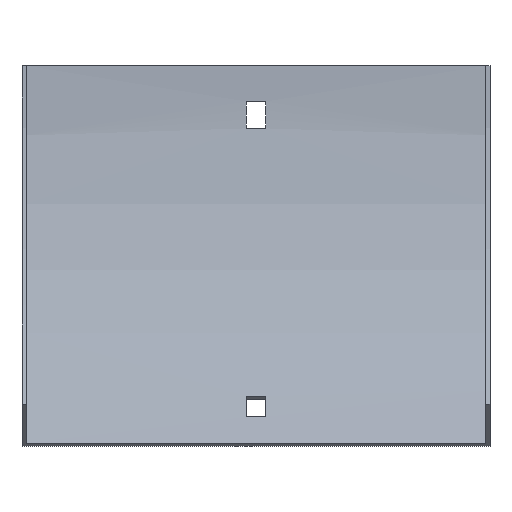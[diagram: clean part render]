
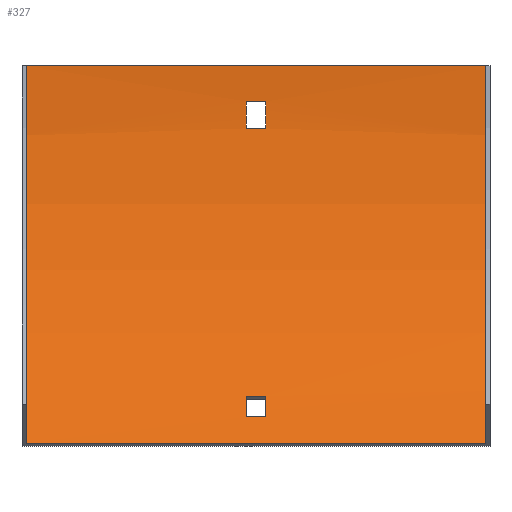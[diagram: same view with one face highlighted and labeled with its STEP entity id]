
A CAD part, front view. The second image highlights one B-rep face of the part: STEP entity #327.
In plain terms, the highlighted cylindrical face has radius 179 mm (diameter 358 mm), a partial arc.
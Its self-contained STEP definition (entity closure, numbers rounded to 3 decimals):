
#2 = EDGE_CURVE ( 'NONE', #588, #48, #360, .T. ) ;
#8 = ORIENTED_EDGE ( 'NONE', *, *, #319, .T. ) ;
#14 = EDGE_LOOP ( 'NONE', ( #15, #95, #174, #408 ) ) ;
#15 = ORIENTED_EDGE ( 'NONE', *, *, #472, .F. ) ;
#18 = CARTESIAN_POINT ( 'NONE',  ( -77., -53.928, -126.572 ) ) ;
#29 = DIRECTION ( 'NONE',  ( -1., 0., 0. ) ) ;
#34 = VERTEX_POINT ( 'NONE', #18 ) ;
#36 = LINE ( 'NONE', #536, #306 ) ;
#45 = LINE ( 'NONE', #331, #598 ) ;
#46 = ORIENTED_EDGE ( 'NONE', *, *, #377, .F. ) ;
#48 = VERTEX_POINT ( 'NONE', #54 ) ;
#54 = CARTESIAN_POINT ( 'NONE',  ( -3.25, -39.953, -110.849 ) ) ;
#67 = DIRECTION ( 'NONE',  ( 0., 0., -1. ) ) ;
#72 = CIRCLE ( 'NONE', #204, 179. ) ;
#73 = DIRECTION ( 'NONE',  ( 0., 0., 1. ) ) ;
#83 = DIRECTION ( 'NONE',  ( 1., 0., 0. ) ) ;
#88 = FACE_OUTER_BOUND ( 'NONE', #14, .T. ) ;
#91 = VERTEX_POINT ( 'NONE', #347 ) ;
#92 = VECTOR ( 'NONE', #133, 1000. ) ;
#95 = ORIENTED_EDGE ( 'NONE', *, *, #405, .F. ) ;
#110 = CARTESIAN_POINT ( 'NONE',  ( 3.25, -1.903, -12. ) ) ;
#116 = DIRECTION ( 'NONE',  ( 1., 0., 0. ) ) ;
#124 = EDGE_CURVE ( 'NONE', #91, #260, #72, .T. ) ;
#126 = VERTEX_POINT ( 'NONE', #161 ) ;
#133 = DIRECTION ( 'NONE',  ( 1., 0., 0. ) ) ;
#137 = ORIENTED_EDGE ( 'NONE', *, *, #218, .T. ) ;
#144 = ORIENTED_EDGE ( 'NONE', *, *, #280, .F. ) ;
#145 = AXIS2_PLACEMENT_3D ( 'NONE', #270, #116, #589 ) ;
#155 = DIRECTION ( 'NONE',  ( -1., 0., 0. ) ) ;
#161 = CARTESIAN_POINT ( 'NONE',  ( 77., -1.5, 0. ) ) ;
#162 = LINE ( 'NONE', #599, #350 ) ;
#169 = CARTESIAN_POINT ( 'NONE',  ( -3.25, -180.5, 0. ) ) ;
#170 = CARTESIAN_POINT ( 'NONE',  ( -3.25, -1.903, -12. ) ) ;
#172 = VECTOR ( 'NONE', #83, 1000. ) ;
#174 = ORIENTED_EDGE ( 'NONE', *, *, #199, .T. ) ;
#177 = CARTESIAN_POINT ( 'NONE',  ( 78.5, -180.5, 0. ) ) ;
#185 = CIRCLE ( 'NONE', #145, 179. ) ;
#186 = CYLINDRICAL_SURFACE ( 'NONE', #580, 179. ) ;
#198 = CARTESIAN_POINT ( 'NONE',  ( 3.25, -180.5, 0. ) ) ;
#199 = EDGE_CURVE ( 'NONE', #213, #126, #432, .T. ) ;
#203 = LINE ( 'NONE', #206, #422 ) ;
#204 = AXIS2_PLACEMENT_3D ( 'NONE', #344, #361, #401 ) ;
#206 = CARTESIAN_POINT ( 'NONE',  ( 78.5, -45.727, -117.802 ) ) ;
#213 = VERTEX_POINT ( 'NONE', #490 ) ;
#218 = EDGE_CURVE ( 'NONE', #473, #534, #369, .T. ) ;
#219 = DIRECTION ( 'NONE',  ( -1., 0., 0. ) ) ;
#221 = CIRCLE ( 'NONE', #574, 179. ) ;
#224 = LINE ( 'NONE', #372, #172 ) ;
#233 = AXIS2_PLACEMENT_3D ( 'NONE', #169, #591, #67 ) ;
#235 = FACE_BOUND ( 'NONE', #547, .T. ) ;
#237 = DIRECTION ( 'NONE',  ( 0., 0., 1. ) ) ;
#249 = EDGE_CURVE ( 'NONE', #534, #588, #203, .T. ) ;
#250 = EDGE_LOOP ( 'NONE', ( #526, #400, #8, #137 ) ) ;
#259 = CARTESIAN_POINT ( 'NONE',  ( -3.25, -180.5, 0. ) ) ;
#260 = VERTEX_POINT ( 'NONE', #110 ) ;
#270 = CARTESIAN_POINT ( 'NONE',  ( -77., -180.5, 0. ) ) ;
#279 = VERTEX_POINT ( 'NONE', #428 ) ;
#280 = EDGE_CURVE ( 'NONE', #279, #91, #224, .T. ) ;
#281 = AXIS2_PLACEMENT_3D ( 'NONE', #346, #532, #487 ) ;
#300 = DIRECTION ( 'NONE',  ( -1., 0., 0. ) ) ;
#306 = VECTOR ( 'NONE', #219, 1000. ) ;
#309 = ORIENTED_EDGE ( 'NONE', *, *, #379, .F. ) ;
#311 = CARTESIAN_POINT ( 'NONE',  ( 3.25, -45.727, -117.802 ) ) ;
#319 = EDGE_CURVE ( 'NONE', #48, #473, #423, .T. ) ;
#327 = ADVANCED_FACE ( 'NONE', ( #235, #88, #426 ), #186, .F. ) ;
#331 = CARTESIAN_POINT ( 'NONE',  ( 78.5, -1.903, -12. ) ) ;
#341 = DIRECTION ( 'NONE',  ( -1., 0., 0. ) ) ;
#344 = CARTESIAN_POINT ( 'NONE',  ( 3.25, -180.5, 0. ) ) ;
#345 = AXIS2_PLACEMENT_3D ( 'NONE', #198, #155, #495 ) ;
#346 = CARTESIAN_POINT ( 'NONE',  ( 77., -180.5, 0. ) ) ;
#347 = CARTESIAN_POINT ( 'NONE',  ( 3.25, -2.736, -21. ) ) ;
#350 = VECTOR ( 'NONE', #29, 1000. ) ;
#353 = CARTESIAN_POINT ( 'NONE',  ( -77., -1.5, 0. ) ) ;
#360 = CIRCLE ( 'NONE', #233, 179. ) ;
#361 = DIRECTION ( 'NONE',  ( 1., 0., 0. ) ) ;
#369 = CIRCLE ( 'NONE', #345, 179. ) ;
#372 = CARTESIAN_POINT ( 'NONE',  ( 78.5, -2.736, -21. ) ) ;
#377 = EDGE_CURVE ( 'NONE', #260, #415, #45, .T. ) ;
#379 = EDGE_CURVE ( 'NONE', #415, #279, #221, .T. ) ;
#390 = CARTESIAN_POINT ( 'NONE',  ( -3.25, -45.727, -117.802 ) ) ;
#396 = DIRECTION ( 'NONE',  ( -1., 0., 0. ) ) ;
#400 = ORIENTED_EDGE ( 'NONE', *, *, #2, .T. ) ;
#401 = DIRECTION ( 'NONE',  ( 0., 0., -1. ) ) ;
#405 = EDGE_CURVE ( 'NONE', #213, #34, #162, .T. ) ;
#408 = ORIENTED_EDGE ( 'NONE', *, *, #551, .T. ) ;
#415 = VERTEX_POINT ( 'NONE', #170 ) ;
#422 = VECTOR ( 'NONE', #396, 1000. ) ;
#423 = LINE ( 'NONE', #561, #92 ) ;
#426 = FACE_BOUND ( 'NONE', #250, .T. ) ;
#428 = CARTESIAN_POINT ( 'NONE',  ( -3.25, -2.736, -21. ) ) ;
#432 = CIRCLE ( 'NONE', #281, 179. ) ;
#452 = CARTESIAN_POINT ( 'NONE',  ( 3.25, -39.953, -110.849 ) ) ;
#472 = EDGE_CURVE ( 'NONE', #34, #554, #185, .T. ) ;
#473 = VERTEX_POINT ( 'NONE', #452 ) ;
#487 = DIRECTION ( 'NONE',  ( 0., 0., 1. ) ) ;
#490 = CARTESIAN_POINT ( 'NONE',  ( 77., -53.928, -126.572 ) ) ;
#495 = DIRECTION ( 'NONE',  ( 0., 0., 1. ) ) ;
#526 = ORIENTED_EDGE ( 'NONE', *, *, #249, .T. ) ;
#532 = DIRECTION ( 'NONE',  ( 1., 0., 0. ) ) ;
#534 = VERTEX_POINT ( 'NONE', #311 ) ;
#536 = CARTESIAN_POINT ( 'NONE',  ( 77., -1.5, 0. ) ) ;
#547 = EDGE_LOOP ( 'NONE', ( #309, #46, #557, #144 ) ) ;
#551 = EDGE_CURVE ( 'NONE', #126, #554, #36, .T. ) ;
#554 = VERTEX_POINT ( 'NONE', #353 ) ;
#557 = ORIENTED_EDGE ( 'NONE', *, *, #124, .F. ) ;
#558 = DIRECTION ( 'NONE',  ( -1., 0., 0. ) ) ;
#561 = CARTESIAN_POINT ( 'NONE',  ( 78.5, -39.953, -110.849 ) ) ;
#574 = AXIS2_PLACEMENT_3D ( 'NONE', #259, #300, #73 ) ;
#580 = AXIS2_PLACEMENT_3D ( 'NONE', #177, #558, #237 ) ;
#588 = VERTEX_POINT ( 'NONE', #390 ) ;
#589 = DIRECTION ( 'NONE',  ( 0., 0., 1. ) ) ;
#591 = DIRECTION ( 'NONE',  ( 1., 0., 0. ) ) ;
#598 = VECTOR ( 'NONE', #341, 1000. ) ;
#599 = CARTESIAN_POINT ( 'NONE',  ( 77., -53.928, -126.572 ) ) ;
